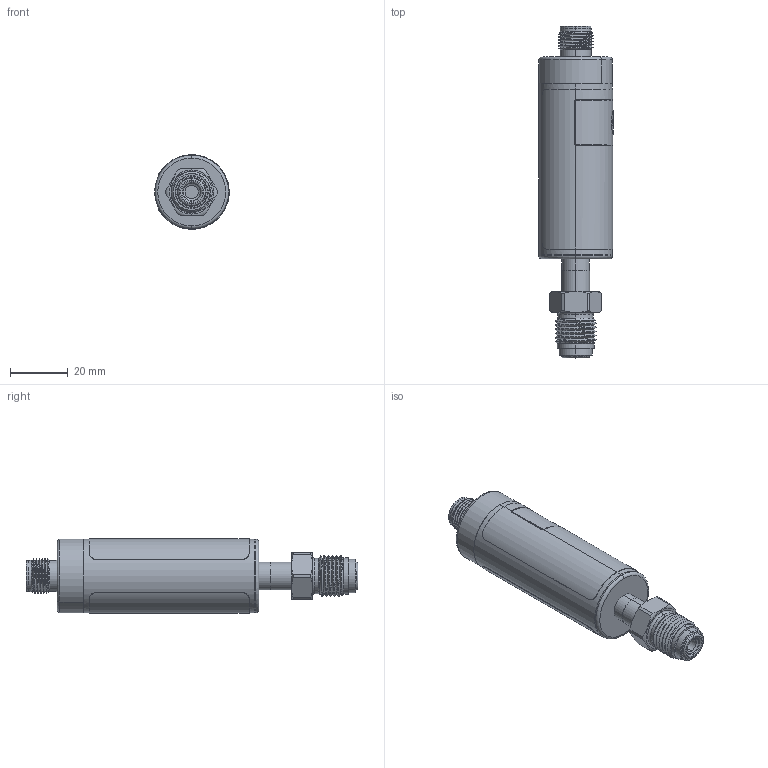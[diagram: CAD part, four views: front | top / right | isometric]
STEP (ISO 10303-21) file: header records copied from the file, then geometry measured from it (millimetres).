
FILE_DESCRIPTION (( 'STEP AP203' ), '1' );
FILE_NAME ('GSD-XXXXXX-Q-XXX-SM.STEP', '2025-06-25T16:27:59', ( '' ), ( '' ), 'SwSTEP 2.0', 'SolidWorks 2023', '' );
FILE_SCHEMA (( 'CONFIG_CONTROL_DESIGN' ));
Length unit declared in the file: inch
Products named in the file (5): 333124_A333124001; GSD-XXXXXX-Q-XXX-SM; GS 2; GSx Body_Integrated Connector; ME131193
Assembly tree (4 placements, depth 2):
  GSD-XXXXXX-Q-XXX-SM
    GSx Body_Integrated Connector
    GS 2
    333124_A333124001
    ME131193
Bounding box: 25.65 x 114.54 x 25.76 mm (x, y, z)
Volume: 14946.5 mm3; surface area: 16900.2 mm2
Topology: 5 solids, 5 shells, 271 faces, 670 edges, 425 vertices
Faces by surface type: cylinder 101, plane 72, bspline 44, cone 34, torus 20
Entity records: 14450 total; most frequent: CARTESIAN_POINT 7910, ORIENTED_EDGE 1324, DIRECTION 1166, EDGE_CURVE 662, AXIS2_PLACEMENT_3D 482, VERTEX_POINT 425, EDGE_LOOP 303, FACE_OUTER_BOUND 271
